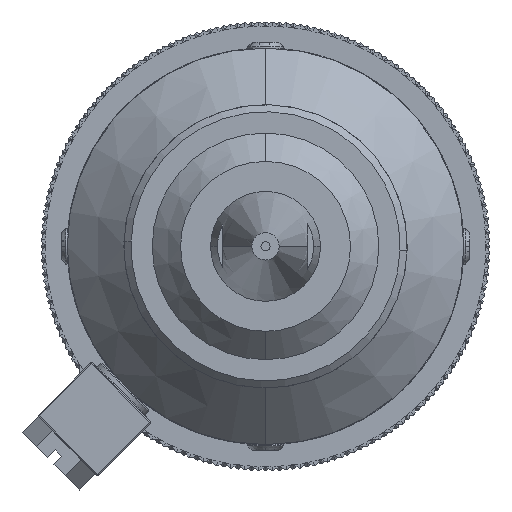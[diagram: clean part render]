
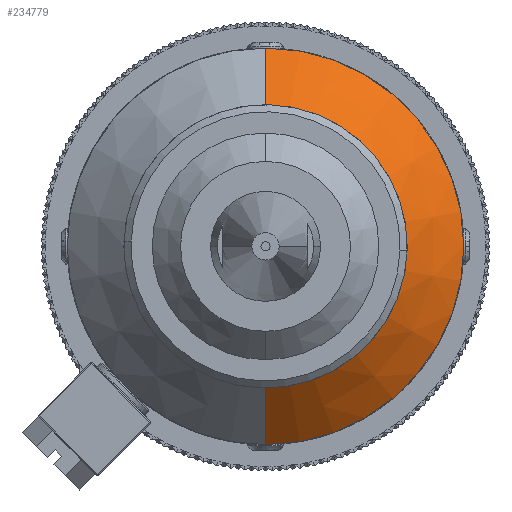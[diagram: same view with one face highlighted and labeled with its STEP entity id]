
A CAD part, front view. The second image highlights one B-rep face of the part: STEP entity #234779.
In plain terms, the highlighted conical face has half-angle 45 degrees and reference radius 15.875 mm.
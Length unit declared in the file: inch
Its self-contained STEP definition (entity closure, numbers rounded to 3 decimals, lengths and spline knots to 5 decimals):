
#8255 = VERTEX_POINT ( 'NONE', #236385 ) ;
#11159 = LINE ( 'NONE', #128985, #113824 ) ;
#17379 = VECTOR ( 'NONE', #248564, 39.37008 ) ;
#22449 = CIRCLE ( 'NONE', #157378, 0.625 ) ;
#23587 = EDGE_CURVE ( 'NONE', #172191, #139524, #11159, .T. ) ;
#25473 = DIRECTION ( 'NONE',  ( 0., -1., 0. ) ) ;
#30136 = CARTESIAN_POINT ( 'NONE',  ( 0., 0.25, 0.875 ) ) ;
#43974 = CARTESIAN_POINT ( 'NONE',  ( 0., 0., 0. ) ) ;
#44852 = ORIENTED_EDGE ( 'NONE', *, *, #233331, .F. ) ;
#54385 = CIRCLE ( 'NONE', #150339, 0.875 ) ;
#57501 = FACE_OUTER_BOUND ( 'NONE', #92529, .T. ) ;
#64673 = DIRECTION ( 'NONE',  ( 0., 0., -1. ) ) ;
#71062 = ORIENTED_EDGE ( 'NONE', *, *, #23587, .T. ) ;
#73975 = DIRECTION ( 'NONE',  ( 0., 0., 1. ) ) ;
#78696 = AXIS2_PLACEMENT_3D ( 'NONE', #114374, #236583, #73975 ) ;
#90972 = ORIENTED_EDGE ( 'NONE', *, *, #105875, .T. ) ;
#92529 = EDGE_LOOP ( 'NONE', ( #230994, #71062, #90972, #44852 ) ) ;
#105875 = EDGE_CURVE ( 'NONE', #139524, #146496, #54385, .T. ) ;
#111737 = CARTESIAN_POINT ( 'NONE',  ( 0., 0.25, -0.875 ) ) ;
#113824 = VECTOR ( 'NONE', #170377, 39.37008 ) ;
#114374 = CARTESIAN_POINT ( 'NONE',  ( 0., 0., 0. ) ) ;
#128985 = CARTESIAN_POINT ( 'NONE',  ( 0., 0., -0.625 ) ) ;
#139524 = VERTEX_POINT ( 'NONE', #111737 ) ;
#146496 = VERTEX_POINT ( 'NONE', #30136 ) ;
#148579 = CARTESIAN_POINT ( 'NONE',  ( 0., 0.25, 0. ) ) ;
#150339 = AXIS2_PLACEMENT_3D ( 'NONE', #148579, #25473, #169249 ) ;
#157378 = AXIS2_PLACEMENT_3D ( 'NONE', #43974, #187754, #64673 ) ;
#169249 = DIRECTION ( 'NONE',  ( 0., 0., -1. ) ) ;
#170377 = DIRECTION ( 'NONE',  ( 0., 0.707, -0.707 ) ) ;
#172191 = VERTEX_POINT ( 'NONE', #174989 ) ;
#174989 = CARTESIAN_POINT ( 'NONE',  ( 0., 0., -0.625 ) ) ;
#181206 = LINE ( 'NONE', #227997, #17379 ) ;
#187754 = DIRECTION ( 'NONE',  ( 0., -1., 0. ) ) ;
#189300 = CONICAL_SURFACE ( 'NONE', #78696, 0.625, 0.785 ) ;
#209631 = EDGE_CURVE ( 'NONE', #172191, #8255, #22449, .T. ) ;
#227997 = CARTESIAN_POINT ( 'NONE',  ( 0., 0., 0.625 ) ) ;
#230994 = ORIENTED_EDGE ( 'NONE', *, *, #209631, .F. ) ;
#233331 = EDGE_CURVE ( 'NONE', #8255, #146496, #181206, .T. ) ;
#234779 = ADVANCED_FACE ( 'NONE', ( #57501 ), #189300, .T. ) ;
#236385 = CARTESIAN_POINT ( 'NONE',  ( 0., 0., 0.625 ) ) ;
#236583 = DIRECTION ( 'NONE',  ( 0., 1., 0. ) ) ;
#248564 = DIRECTION ( 'NONE',  ( 0., 0.707, 0.707 ) ) ;
